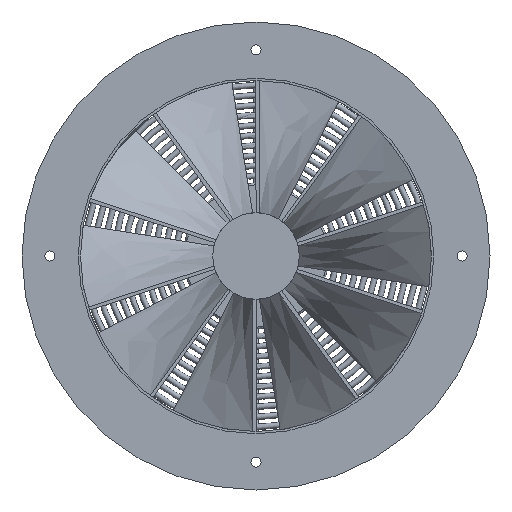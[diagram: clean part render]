
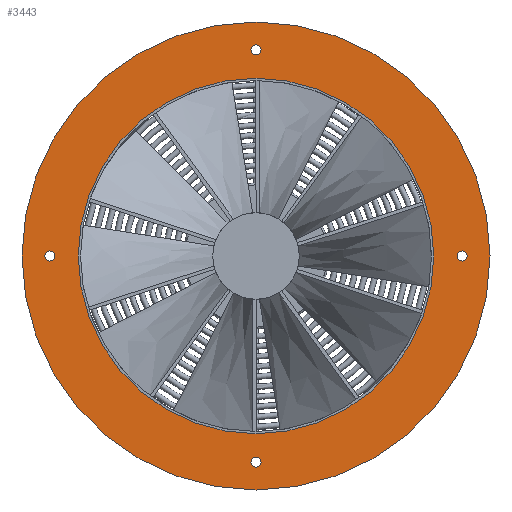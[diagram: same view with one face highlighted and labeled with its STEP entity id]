
A CAD part, left-side view. The second image highlights one B-rep face of the part: STEP entity #3443.
In plain terms, the highlighted planar face has unit normal (-1, 0, 0).
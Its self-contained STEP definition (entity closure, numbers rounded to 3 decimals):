
#260=PLANE('',#3772);
#845=FACE_BOUND('',#1202,.T.);
#846=FACE_BOUND('',#1203,.T.);
#847=FACE_BOUND('',#1204,.T.);
#848=FACE_BOUND('',#1205,.T.);
#849=FACE_BOUND('',#1206,.T.);
#998=FACE_OUTER_BOUND('',#1201,.T.);
#1201=EDGE_LOOP('',(#3101));
#1202=EDGE_LOOP('',(#3102));
#1203=EDGE_LOOP('',(#3103));
#1204=EDGE_LOOP('',(#3104));
#1205=EDGE_LOOP('',(#3105));
#1206=EDGE_LOOP('',(#3106));
#1227=CIRCLE('',#3461,4.5);
#1229=CIRCLE('',#3464,4.5);
#1231=CIRCLE('',#3467,4.5);
#1233=CIRCLE('',#3470,4.5);
#1289=CIRCLE('',#3773,210.);
#1290=CIRCLE('',#3774,159.5);
#1297=VERTEX_POINT('',#4649);
#1299=VERTEX_POINT('',#4654);
#1301=VERTEX_POINT('',#4659);
#1303=VERTEX_POINT('',#4664);
#1619=VERTEX_POINT('',#6521);
#1620=VERTEX_POINT('',#6523);
#1625=EDGE_CURVE('',#1297,#1297,#1227,.T.);
#1627=EDGE_CURVE('',#1299,#1299,#1229,.T.);
#1629=EDGE_CURVE('',#1301,#1301,#1231,.T.);
#1631=EDGE_CURVE('',#1303,#1303,#1233,.T.);
#2111=EDGE_CURVE('',#1619,#1619,#1289,.T.);
#2112=EDGE_CURVE('',#1620,#1620,#1290,.T.);
#3101=ORIENTED_EDGE('',*,*,#2111,.F.);
#3102=ORIENTED_EDGE('',*,*,#1625,.T.);
#3103=ORIENTED_EDGE('',*,*,#1627,.T.);
#3104=ORIENTED_EDGE('',*,*,#1629,.T.);
#3105=ORIENTED_EDGE('',*,*,#1631,.T.);
#3106=ORIENTED_EDGE('',*,*,#2112,.T.);
#3443=ADVANCED_FACE('',(#998,#845,#846,#847,#848,#849),#260,.T.);
#3461=AXIS2_PLACEMENT_3D('',#4650,#3791,#3792);
#3464=AXIS2_PLACEMENT_3D('',#4655,#3797,#3798);
#3467=AXIS2_PLACEMENT_3D('',#4660,#3803,#3804);
#3470=AXIS2_PLACEMENT_3D('',#4665,#3809,#3810);
#3772=AXIS2_PLACEMENT_3D('',#6520,#4617,#4618);
#3773=AXIS2_PLACEMENT_3D('',#6522,#4619,#4620);
#3774=AXIS2_PLACEMENT_3D('',#6524,#4621,#4622);
#3791=DIRECTION('center_axis',(1.,0.,0.));
#3792=DIRECTION('ref_axis',(0.,1.,0.));
#3797=DIRECTION('center_axis',(1.,0.,0.));
#3798=DIRECTION('ref_axis',(0.,0.,-1.));
#3803=DIRECTION('center_axis',(1.,0.,0.));
#3804=DIRECTION('ref_axis',(0.,-1.,0.));
#3809=DIRECTION('center_axis',(1.,0.,0.));
#3810=DIRECTION('ref_axis',(0.,0.,1.));
#4617=DIRECTION('center_axis',(-1.,0.,0.));
#4618=DIRECTION('ref_axis',(0.,0.,1.));
#4619=DIRECTION('center_axis',(1.,0.,0.));
#4620=DIRECTION('ref_axis',(0.,0.,-1.));
#4621=DIRECTION('center_axis',(1.,0.,0.));
#4622=DIRECTION('ref_axis',(0.,0.,-1.));
#4649=CARTESIAN_POINT('',(65.,-189.5,0.));
#4650=CARTESIAN_POINT('Origin',(65.,-185.,0.));
#4654=CARTESIAN_POINT('',(65.,0.,189.5));
#4655=CARTESIAN_POINT('Origin',(65.,0.,185.));
#4659=CARTESIAN_POINT('',(65.,189.5,0.));
#4660=CARTESIAN_POINT('Origin',(65.,185.,0.));
#4664=CARTESIAN_POINT('',(65.,0.,-189.5));
#4665=CARTESIAN_POINT('Origin',(65.,0.,-185.));
#6520=CARTESIAN_POINT('Origin',(65.,210.,0.));
#6521=CARTESIAN_POINT('',(65.,210.,0.));
#6522=CARTESIAN_POINT('Origin',(65.,0.,0.));
#6523=CARTESIAN_POINT('',(65.,159.5,0.));
#6524=CARTESIAN_POINT('Origin',(65.,0.,0.));
